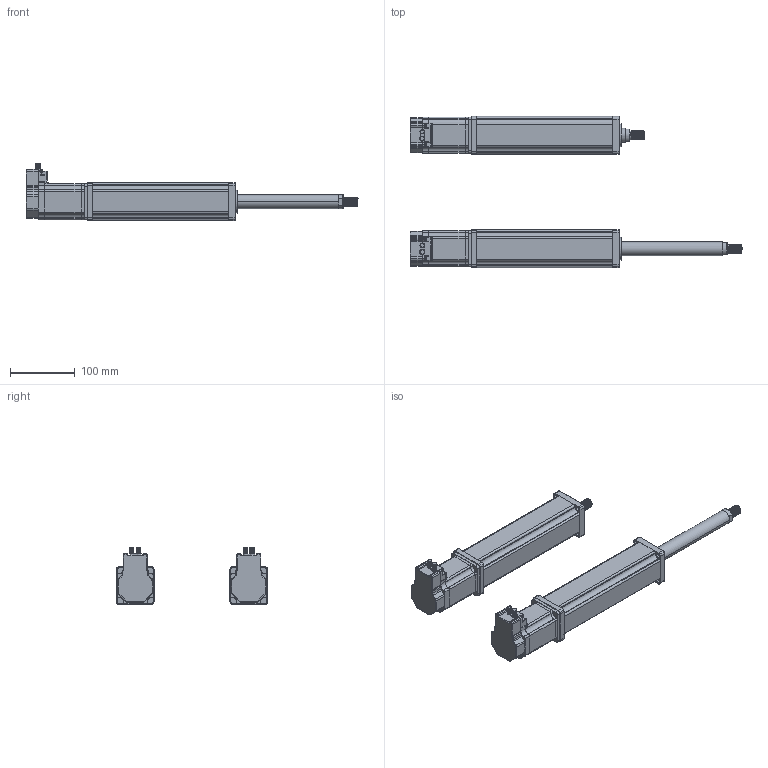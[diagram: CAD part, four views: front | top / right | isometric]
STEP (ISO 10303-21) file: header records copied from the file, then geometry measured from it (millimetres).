
FILE_DESCRIPTION(('STEP AP214'),'1');
FILE_NAME('\Tsurumi-main\3d_dad2\Servo_Motor\tmp0.STEP',' ',(' '),(' '),'XStep 1.0',' ',' ');
FILE_SCHEMA(('automotive_design'));
Length unit declared in the file: millimetre
Bounding box: 512.5 x 233.23 x 88.11 mm (x, y, z)
Volume: 2012909 mm3; surface area: 276372.6 mm2
Topology: 48 solids, 48 shells, 1828 faces, 5014 edges, 3286 vertices
Faces by surface type: plane 1250, cylinder 470, bspline 60, torus 36, sphere 8, cone 4
Entity records: 112259 total; most frequent: CARTESIAN_POINT 49708, ORIENTED_EDGE 9996, DIRECTION 9460, EDGE_CURVE 4998, LINE 3900, VECTOR 3900, VERTEX_POINT 3286, AXIS2_PLACEMENT_3D 2780
